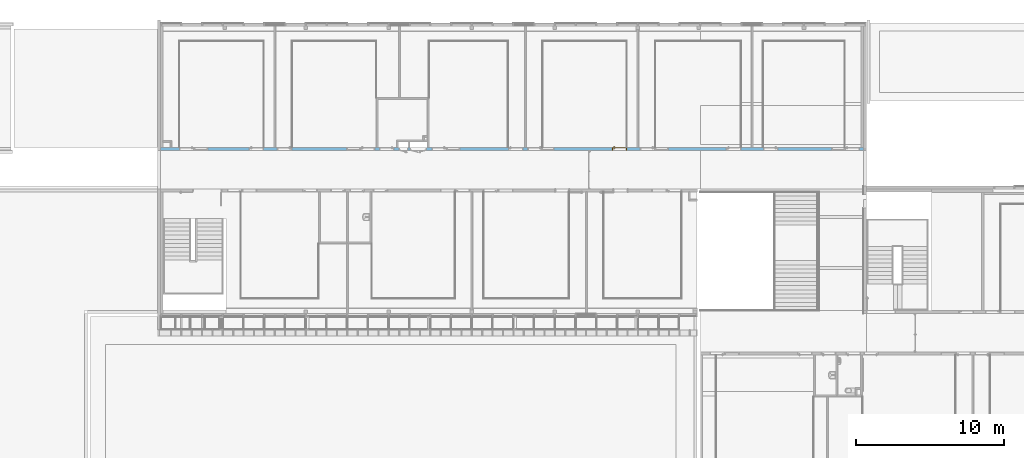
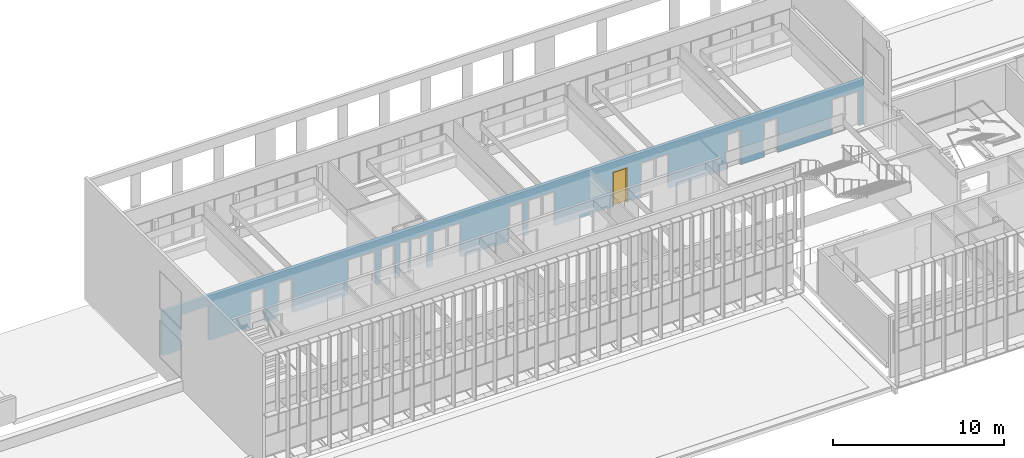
# One storey, part 56 of 106: 1 door, 21 openings, plus 1 element that does not belong to this part.
"""IFC2X3 building model written with IfcOpenShell, lengths in centimetres."""

from ifc_helpers import new_model, entity, si_unit, converted_unit, derived_unit, direction, frame, frame_2d, origin, place, context, subcontext, project, spatial, polyline, rectangle, extrude, clip, bounded_halfspace, faceted_brep, source, transform, mapped, material, material_list, layer, layer_set, layer_usage, type_object, type_shapes, element, fill, save


model = new_model("IFC2X3")

# Units and contexts
model_context = context("Model", 3, precision=0.001, world=origin(), true_north=direction((6.12303176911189e-17, 1.0)))
body_context = subcontext(model_context, "Body", "Model", "MODEL_VIEW")
ifc_project = project(units=[si_unit("LENGTHUNIT", "METRE", prefix="CENTI"), si_unit("AREAUNIT", "SQUARE_METRE"), si_unit("VOLUMEUNIT", "CUBIC_METRE"), converted_unit("PLANEANGLEUNIT", "DEGREE", entity("IfcRatioMeasure", 0.0174532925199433), si_unit("PLANEANGLEUNIT", "RADIAN"), dimensions=[0, 0, 0, 0, 0, 0, 0]), si_unit("MASSUNIT", "GRAM", prefix="KILO"), derived_unit("MASSDENSITYUNIT", [(si_unit("MASSUNIT", "GRAM", prefix="KILO"), 1), (si_unit("LENGTHUNIT", "METRE"), -3)]), si_unit("TIMEUNIT", "SECOND"), si_unit("FREQUENCYUNIT", "HERTZ"), si_unit("THERMODYNAMICTEMPERATUREUNIT", "DEGREE_CELSIUS"), derived_unit("THERMALTRANSMITTANCEUNIT", [(si_unit("MASSUNIT", "GRAM", prefix="KILO"), 1), (si_unit("THERMODYNAMICTEMPERATUREUNIT", "KELVIN"), -1), (si_unit("TIMEUNIT", "SECOND"), -3)]), derived_unit("VOLUMETRICFLOWRATEUNIT", [(si_unit("LENGTHUNIT", "METRE"), 3), (si_unit("TIMEUNIT", "SECOND"), -1)]), si_unit("ELECTRICCURRENTUNIT", "AMPERE"), si_unit("ELECTRICVOLTAGEUNIT", "VOLT"), si_unit("POWERUNIT", "WATT"), si_unit("FORCEUNIT", "NEWTON", prefix="KILO"), si_unit("ILLUMINANCEUNIT", "LUX"), si_unit("LUMINOUSFLUXUNIT", "LUMEN"), si_unit("LUMINOUSINTENSITYUNIT", "CANDELA"), derived_unit("USERDEFINED", [(si_unit("MASSUNIT", "GRAM", prefix="KILO"), -1), (si_unit("LENGTHUNIT", "METRE"), -2), (si_unit("TIMEUNIT", "SECOND"), 3), (si_unit("LUMINOUSFLUXUNIT", "LUMEN"), 1)]), derived_unit("LINEARVELOCITYUNIT", [(si_unit("LENGTHUNIT", "METRE"), 1), (si_unit("TIMEUNIT", "SECOND"), -1)]), si_unit("PRESSUREUNIT", "PASCAL"), derived_unit("USERDEFINED", [(si_unit("LENGTHUNIT", "METRE"), -2), (si_unit("MASSUNIT", "GRAM", prefix="KILO"), 1), (si_unit("TIMEUNIT", "SECOND"), -2)])], contexts=[model_context])

# Site, building, storey
site_placement = place(None, frame((-2781.94577612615, 7442.24238424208, 0.0)))
site = spatial("IfcSite", under=ifc_project, at=site_placement, Name="Default", CompositionType="ELEMENT")
building_placement = place(site_placement, origin())
building = spatial("IfcBuilding", under=site, at=building_placement, CompositionType="ELEMENT")
storey_placement = place(building_placement, frame((0.0, 0.0, 422.0)))
storey = spatial("IfcBuildingStorey", under=building, at=storey_placement, Name="Toiture - Cuisine", CompositionType="ELEMENT", Elevation=421.999999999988)

# Wall, openings, door
ifc_material_1 = material(Name="01 - Maçonnerie")
ifc_layer = layer(ifc_material_1, 20.0)
ifc_layer_set = layer_set([ifc_layer], Name="Mur de base:04 - Structure - béton - 20cm")
ifc_layer_usage = layer_usage(ifc_layer_set, "AXIS2", "NEGATIVE", 10.0)
wall_type = type_object("IfcWallType", Name="Mur de base:04 - Structure - béton - 20cm", PredefinedType="STANDARD", material=ifc_layer_set)
wall_placement = place(building_placement, frame((-8409.49987766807, -820.048500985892, 422.0)))
wall = element("IfcWallStandardCase", 1, at=wall_placement, inside=storey, type_object=wall_type, material=ifc_layer_usage, Name="Mur de base:04 - Structure - béton - 20cm", ObjectType="Mur de base:04 - Structure - béton - 20cm", context=body_context, shape_type="Clipping", body=[
    clip(extrude(rectangle(XDim=4741.49999798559, YDim=20.0, at=frame_2d((2370.74999899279, 2.04281036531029e-14), x_axis=(-1.0, 0.0))), origin(), (0.0, 0.0, 1.0), 321.0), bounded_halfspace(frame((4741.49999798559, -10.0, 321.0), z_axis=(0.0, 0.0, -1.0), x_axis=(0.0, 1.0, 0.0)), True, frame((4741.49999798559, -10.0, 321.0)), polyline([(0.0, 0.0), (0.0, 20.0), (-15.3000000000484, 20.0), (-125.300000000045, 20.0), (-127.300000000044, 20.0), (-675.800000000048, 20.0), (-677.800000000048, 20.0), (-745.800000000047, 20.0), (-755.800000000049, 20.0), (-825.800000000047, 20.0), (-827.800000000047, 20.0), (-1403.80000000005, 20.0), (-1405.80000000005, 20.0), (-1516.49999791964, 20.0), (-1526.49999791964, 20.0), (-1595.78709704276, 20.0), (-1597.78709704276, 20.0), (-2163.80000000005, 20.0), (-2165.80000000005, 20.0), (-2275.80000000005, 20.0), (-2285.80000000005, 20.0), (-2395.80000000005, 20.0), (-2397.80000000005, 20.0), (-2931.80000000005, 20.0), (-2941.80000000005, 20.0), (-3060.80000000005, 20.0), (-3070.80000000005, 20.0), (-3137.80000000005, 20.0), (-3147.80000000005, 20.0), (-3275.80000000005, 20.0), (-3285.80000000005, 20.0), (-3416.49999791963, 20.0), (-3535.80000000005, 20.0), (-3545.80000000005, 20.0), (-3611.80000000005, 20.0), (-3853.80000000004, 20.0), (-3855.80000000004, 20.0), (-3965.80000000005, 20.0), (-3975.80000000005, 20.0), (-4044.30000000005, 20.0), (-4046.30000000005, 20.0), (-4614.19999798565, 20.0), (-4616.19999798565, 20.0), (-4666.19999798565, 20.0), (-4676.19999798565, 20.0), (-4726.19999798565, 20.0), (-4741.49999798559, 20.0), (-4741.49999798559, 0.0), (-1854.0, 0.0), (-1844.0, 0.0), (-1840.0, 0.0), (0.0, 0.0)]))),
])
opening_1_placement = place(wall_placement, frame((1669.50000006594, 10.0, 0.0)))
element("IfcOpeningElement", 2, at=opening_1_placement, cuts=wall, Name="Int. Simple:PP Placard (0.55m x 2.50m):1", ObjectType="Opening", context=body_context, shape_type="SweptSolid", body=[
    extrude(rectangle(XDim=248.500000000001, YDim=61.9999999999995, at=frame_2d((124.250000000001, 30.9999999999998), x_axis=(1.0, 0.0))), frame((0.0, 0.0, 0.0), z_axis=(0.0, -1.0, 0.0), x_axis=(0.0, 0.0, 1.0)), (0.0, 0.0, 1.0), 20.0),
])
opening_2_placement = place(wall_placement, frame((1794.50000006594, 10.0, 0.0)))
element("IfcOpeningElement", 3, at=opening_2_placement, cuts=wall, Name="Int. Double:PP Placard (1.05m x 2.50m):1", ObjectType="Opening", context=body_context, shape_type="SweptSolid", body=[
    extrude(rectangle(XDim=248.500000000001, YDim=112.0, at=frame_2d((124.250000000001, 56.0000000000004), x_axis=(1.0, 0.0))), frame((0.0, 0.0, 0.0), z_axis=(0.0, -1.0, 0.0), x_axis=(0.0, 0.0, 1.0)), (0.0, 0.0, 1.0), 20.0),
])
opening_3_placement = place(wall_placement, frame((126.799999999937, -10.0, 0.0)))
element("IfcOpeningElement", 4, at=opening_3_placement, cuts=wall, Name="Int. Simple:PV (0.93m x 2.50m):1", ObjectType="Opening", context=body_context, shape_type="SweptSolid", body=[
    extrude(rectangle(XDim=248.500000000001, YDim=99.9999999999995, at=frame_2d((124.250000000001, 50.0), x_axis=(1.0, 0.0))), frame((0.0, 0.0, 0.0), z_axis=(0.0, 1.0, 0.0), x_axis=(0.0, 0.0, 1.0)), (0.0, 0.0, 1.0), 20.0),
])
opening_4_placement = place(wall_placement, frame((595.699997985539, -10.0, 0.0)))
element("IfcOpeningElement", 5, at=opening_4_placement, cuts=wall, Name="Int. Simple:PV (0.93m x 2.50m):1", ObjectType="Opening", context=body_context, shape_type="SweptSolid", body=[
    extrude(rectangle(XDim=248.500000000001, YDim=99.9999999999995, at=frame_2d((124.250000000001, 49.9999999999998), x_axis=(1.0, 0.0))), frame((0.0, 0.0, 0.0), z_axis=(0.0, 1.0, 0.0), x_axis=(0.0, 0.0, 1.0)), (0.0, 0.0, 1.0), 20.0),
])
opening_5_placement = place(wall_placement, frame((785.699997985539, -10.0, 0.0)))
element("IfcOpeningElement", 6, at=opening_5_placement, cuts=wall, Name="Int. Simple:PV (0.93m x 2.50m):1", ObjectType="Opening", context=body_context, shape_type="SweptSolid", body=[
    extrude(rectangle(XDim=248.500000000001, YDim=99.9999999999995, at=frame_2d((124.250000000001, 50.0), x_axis=(1.0, 0.0))), frame((0.0, 0.0, 0.0), z_axis=(0.0, 1.0, 0.0), x_axis=(0.0, 0.0, 1.0)), (0.0, 0.0, 1.0), 20.0),
])
opening_6_placement = place(wall_placement, frame((1345.69999798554, -10.0, 0.0)))
element("IfcOpeningElement", 7, at=opening_6_placement, cuts=wall, Name="Int. Simple:PV (0.93m x 2.50m):1", ObjectType="Opening", context=body_context, shape_type="SweptSolid", body=[
    extrude(rectangle(XDim=248.500000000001, YDim=99.9999999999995, at=frame_2d((124.250000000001, 49.9999999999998), x_axis=(1.0, 0.0))), frame((0.0, 0.0, 0.0), z_axis=(0.0, 1.0, 0.0), x_axis=(0.0, 0.0, 1.0)), (0.0, 0.0, 1.0), 20.0),
])
opening_7_placement = place(wall_placement, frame((1475.69999798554, -10.0, 0.0)))
element("IfcOpeningElement", 8, at=opening_7_placement, cuts=wall, Name="Int. Simple:PP simple (0.93m x 2.50m):1", ObjectType="Opening", context=body_context, shape_type="SweptSolid", body=[
    extrude(rectangle(XDim=248.500000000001, YDim=99.9999999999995, at=frame_2d((124.250000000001, 50.0), x_axis=(1.0, 0.0))), frame((0.0, 0.0, 0.0), z_axis=(0.0, 1.0, 0.0), x_axis=(0.0, 0.0, 1.0)), (0.0, 0.0, 1.0), 20.0),
])
opening_8_placement = place(wall_placement, frame((1829.69999798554, -10.0, 0.0)))
element("IfcOpeningElement", 9, at=opening_8_placement, cuts=wall, Name="Int. Simple:PV (0.93m x 2.50m):1", ObjectType="Opening", context=body_context, shape_type="SweptSolid", body=[
    extrude(rectangle(XDim=248.500000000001, YDim=99.9999999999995, at=frame_2d((124.250000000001, 50.0), x_axis=(1.0, 0.0))), frame((0.0, 0.0, 0.0), z_axis=(0.0, 1.0, 0.0), x_axis=(0.0, 0.0, 1.0)), (0.0, 0.0, 1.0), 20.0),
])
opening_9_placement = place(wall_placement, frame((2345.69999798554, -10.0, 0.0)))
element("IfcOpeningElement", 10, at=opening_9_placement, cuts=wall, Name="Int. Simple:PV (0.93m x 2.50m):1", ObjectType="Opening", context=body_context, shape_type="SweptSolid", body=[
    extrude(rectangle(XDim=248.500000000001, YDim=99.9999999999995, at=frame_2d((124.250000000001, 49.9999999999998), x_axis=(1.0, 0.0))), frame((0.0, 0.0, 0.0), z_axis=(0.0, 1.0, 0.0), x_axis=(0.0, 0.0, 1.0)), (0.0, 0.0, 1.0), 20.0),
])
opening_10_placement = place(wall_placement, frame((2475.69999798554, -10.0, 0.0)))
element("IfcOpeningElement", 11, at=opening_10_placement, cuts=wall, Name="Int. Simple:PV (0.93m x 2.50m):1", ObjectType="Opening", context=body_context, shape_type="SweptSolid", body=[
    extrude(rectangle(XDim=248.500000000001, YDim=99.9999999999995, at=frame_2d((124.250000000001, 50.0), x_axis=(1.0, 0.0))), frame((0.0, 0.0, 0.0), z_axis=(0.0, 1.0, 0.0), x_axis=(0.0, 0.0, 1.0)), (0.0, 0.0, 1.0), 20.0),
])
opening_11_placement = place(wall_placement, frame((3045.69999798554, -10.0, 0.0)))
opening_11 = element("IfcOpeningElement", 12, at=opening_11_placement, cuts=wall, Name="Int. Simple:PV (0.93m x 2.50m):1", ObjectType="Opening", context=body_context, shape_type="SweptSolid", body=[
    extrude(rectangle(XDim=248.500000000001, YDim=99.9999999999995, at=frame_2d((124.250000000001, 49.9999999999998), x_axis=(1.0, 0.0))), frame((0.0, 0.0, 0.0), z_axis=(0.0, 1.0, 0.0), x_axis=(0.0, 0.0, 1.0)), (0.0, 0.0, 1.0), 20.0),
])
opening_12_placement = place(wall_placement, frame((3235.69999798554, -10.0, 0.0)))
element("IfcOpeningElement", 13, at=opening_12_placement, cuts=wall, Name="Int. Simple:PV (0.93m x 2.50m):1", ObjectType="Opening", context=body_context, shape_type="SweptSolid", body=[
    extrude(rectangle(XDim=248.500000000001, YDim=99.9999999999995, at=frame_2d((124.250000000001, 50.0), x_axis=(1.0, 0.0))), frame((0.0, 0.0, 0.0), z_axis=(0.0, 1.0, 0.0), x_axis=(0.0, 0.0, 1.0)), (0.0, 0.0, 1.0), 20.0),
])
opening_13_placement = place(wall_placement, frame((3815.69999798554, -10.0, 0.0)))
element("IfcOpeningElement", 14, at=opening_13_placement, cuts=wall, Name="Int. Simple:PV (0.93m x 2.50m):1", ObjectType="Opening", context=body_context, shape_type="SweptSolid", body=[
    extrude(rectangle(XDim=248.500000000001, YDim=99.9999999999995, at=frame_2d((124.250000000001, 49.9999999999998), x_axis=(1.0, 0.0))), frame((0.0, 0.0, 0.0), z_axis=(0.0, 1.0, 0.0), x_axis=(0.0, 0.0, 1.0)), (0.0, 0.0, 1.0), 20.0),
])
opening_14_placement = place(wall_placement, frame((4065.69999798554, -10.0, 0.0)))
element("IfcOpeningElement", 15, at=opening_14_placement, cuts=wall, Name="Int. Simple:PV (0.93m x 2.50m):1", ObjectType="Opening", context=body_context, shape_type="SweptSolid", body=[
    extrude(rectangle(XDim=248.500000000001, YDim=99.9999999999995, at=frame_2d((124.250000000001, 50.0), x_axis=(1.0, 0.0))), frame((0.0, 0.0, 0.0), z_axis=(0.0, 1.0, 0.0), x_axis=(0.0, 0.0, 1.0)), (0.0, 0.0, 1.0), 20.0),
])
opening_15_placement = place(wall_placement, frame((4616.19999798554, -10.0, 0.0)))
element("IfcOpeningElement", 16, at=opening_15_placement, cuts=wall, Name="Int. Simple:PV (0.93m x 2.50m):1", ObjectType="Opening", context=body_context, shape_type="SweptSolid", body=[
    extrude(rectangle(XDim=248.500000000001, YDim=99.9999999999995, at=frame_2d((124.250000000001, 49.9999999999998), x_axis=(1.0, 0.0))), frame((0.0, 0.0, 0.0), z_axis=(0.0, 1.0, 0.0), x_axis=(0.0, 0.0, 1.0)), (0.0, 0.0, 1.0), 20.0),
])
opening_16_placement = place(wall_placement, frame((1255.69999798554, -10.0, 0.0)))
element("IfcOpeningElement", 17, at=opening_16_placement, cuts=wall, Name="châssis intérieur vitré:châssis intérieur vitré (h=270) R+1:1", ObjectType="Opening", context=body_context, shape_type="SweptSolid", body=[
    extrude(rectangle(XDim=250.0, YDim=89.9999999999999, at=frame_2d((125.0, 45.0), x_axis=(1.0, 0.0))), frame((0.0, 0.0, 0.0), z_axis=(0.0, 1.0, 0.0), x_axis=(0.0, 0.0, 1.0)), (0.0, 0.0, 1.0), 20.0),
])
opening_17_placement = place(wall_placement, frame((1929.69999798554, -10.0, 0.0)))
element("IfcOpeningElement", 18, at=opening_17_placement, cuts=wall, Name="châssis intérieur vitré:châssis intérieur vitré (h=270) R+1:1", ObjectType="Opening", context=body_context, shape_type="SweptSolid", body=[
    extrude(rectangle(XDim=250.0, YDim=89.9999999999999, at=frame_2d((125.0, 45.0), x_axis=(1.0, 0.0))), frame((0.0, 0.0, 0.0), z_axis=(0.0, 1.0, 0.0), x_axis=(0.0, 0.0, 1.0)), (0.0, 0.0, 1.0), 20.0),
])
opening_18_placement = place(wall_placement, frame((4526.19999798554, -10.0, 0.0)))
element("IfcOpeningElement", 19, at=opening_18_placement, cuts=wall, Name="châssis intérieur vitré:châssis intérieur vitré (h=270) R+1:1", ObjectType="Opening", context=body_context, shape_type="SweptSolid", body=[
    extrude(rectangle(XDim=250.0, YDim=89.9999999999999, at=frame_2d((125.0, 45.0000000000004), x_axis=(1.0, 0.0))), frame((0.0, 0.0, 0.0), z_axis=(0.0, 1.0, 0.0), x_axis=(0.0, 0.0, 1.0)), (0.0, 0.0, 1.0), 20.0),
])
opening_19_placement = place(wall_placement, frame((3335.69999798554, -10.0, 0.0)))
element("IfcOpeningElement", 20, at=opening_19_placement, cuts=wall, Name="châssis intérieur vitré:châssis intérieur vitré (h=270) R+1:1", ObjectType="Opening", context=body_context, shape_type="SweptSolid", body=[
    extrude(rectangle(XDim=250.0, YDim=89.9999999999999, at=frame_2d((125.0, 45.0000000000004), x_axis=(1.0, 0.0))), frame((0.0, 0.0, 0.0), z_axis=(0.0, 1.0, 0.0), x_axis=(0.0, 0.0, 1.0)), (0.0, 0.0, 1.0), 20.0),
])
opening_20_placement = place(wall_placement, frame((2565.69999798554, -10.0, 0.0)))
element("IfcOpeningElement", 21, at=opening_20_placement, cuts=wall, Name="châssis intérieur vitré:châssis intérieur vitré (h=270) R+1:1", ObjectType="Opening", context=body_context, shape_type="SweptSolid", body=[
    extrude(rectangle(XDim=250.0, YDim=89.9999999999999, at=frame_2d((125.0, 45.0000000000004), x_axis=(1.0, 0.0))), frame((0.0, 0.0, 0.0), z_axis=(0.0, 1.0, 0.0), x_axis=(0.0, 0.0, 1.0)), (0.0, 0.0, 1.0), 20.0),
])
opening_21_placement = place(wall_placement, frame((226.799999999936, -10.0, 0.0)))
element("IfcOpeningElement", 22, at=opening_21_placement, cuts=wall, Name="châssis intérieur vitré:châssis intérieur vitré (h=270) R+1:1", ObjectType="Opening", context=body_context, shape_type="SweptSolid", body=[
    extrude(rectangle(XDim=250.0, YDim=91.4999999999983, at=frame_2d((125.0, 45.7499999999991), x_axis=(1.0, 0.0))), frame((0.0, 0.0, 0.0), z_axis=(0.0, 1.0, 0.0), x_axis=(0.0, 0.0, 1.0)), (0.0, 0.0, 1.0), 20.0),
])
ifc_material_2 = material(Name="Finition Peinture - Blanc satiné")
ifc_material_3 = material(Name="Bois - Panneau de porte")
ifc_material_4 = material(Name="Bois - Cadre de porte")
ifc_material_list_1 = material_list([ifc_material_2, ifc_material_3, ifc_material_4])
ifc_material_list_2 = material_list([ifc_material_2, ifc_material_3, ifc_material_4])
door_style = type_object("IfcDoorStyle", Name="PV (0.93m x 2.50m)", ConstructionType="NOTDEFINED", OperationType="SINGLE_SWING_RIGHT", ParameterTakesPrecedence=False, Sizeable=False, material=ifc_material_list_2)
shared_shape = source(origin(), body_context, "Body", "Brep", [
    faceted_brep([(99.5000000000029, -0.500000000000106, 87.0), (99.5000000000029, -0.500000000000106, 108.0), (98.535276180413, -0.500000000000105, 108.399601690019), (97.5000000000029, -0.500000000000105, 108.535898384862), (96.4647238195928, -0.500000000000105, 108.399601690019), (95.500000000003, -0.500000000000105, 108.0), (95.5000000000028, -0.500000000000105, 87.0), (96.4647238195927, -0.500000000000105, 86.6003983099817), (97.5000000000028, -0.500000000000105, 86.464101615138), (98.5352761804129, -0.500000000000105, 86.6003983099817), (99.5000000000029, 0.0, 108.0), (99.5000000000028, 0.0, 87.0), (98.5352761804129, 0.0, 86.6003983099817), (97.5000000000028, 0.0, 86.464101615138), (96.4647238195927, 0.0, 86.6003983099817), (95.5000000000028, 0.0, 87.0), (95.5000000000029, 0.0, 108.0), (96.4647238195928, 0.0, 108.399601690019), (97.5000000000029, 0.0, 108.535898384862), (98.535276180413, 0.0, 108.399601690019)], [[[0, 1, 2, 3, 4, 5, 6, 7, 8, 9]], [[10, 11, 12, 13, 14, 15, 16, 17, 18, 19]], [[9, 12, 11, 0]], [[8, 13, 12, 9]], [[7, 14, 13, 8]], [[7, 6, 15, 14]], [[15, 6, 5, 16]], [[4, 17, 16, 5]], [[3, 18, 17, 4]], [[2, 19, 18, 3]], [[2, 1, 10, 19]], [[11, 10, 1, 0]]]),
    faceted_brep([(99.5000000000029, 4.0, 87.0), (99.5000000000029, 4.0, 108.0), (98.535276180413, 4.0, 108.399601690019), (97.5000000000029, 4.0, 108.535898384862), (96.4647238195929, 4.0, 108.399601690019), (95.500000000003, 4.0, 108.0), (95.5000000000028, 4.0, 87.0), (96.4647238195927, 4.0, 86.6003983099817), (97.5000000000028, 4.0, 86.464101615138), (98.5352761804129, 4.0, 86.6003983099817), (97.5000000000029, 4.49999999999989, 108.535898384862), (98.535276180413, 4.49999999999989, 108.399601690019), (99.5000000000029, 4.49999999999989, 108.0), (99.5000000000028, 4.49999999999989, 87.0), (98.5352761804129, 4.49999999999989, 86.6003983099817), (97.5000000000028, 4.49999999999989, 86.464101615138), (96.4647238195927, 4.49999999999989, 86.6003983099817), (95.5000000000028, 4.49999999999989, 87.0), (95.500000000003, 4.49999999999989, 108.0), (96.4647238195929, 4.49999999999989, 108.399601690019)], [[[0, 1, 2, 3, 4, 5, 6, 7, 8, 9]], [[10, 11, 12, 13, 14, 15, 16, 17, 18, 19]], [[4, 19, 18, 5]], [[3, 10, 19, 4]], [[2, 11, 10, 3]], [[2, 1, 12, 11]], [[13, 12, 1, 0]], [[9, 14, 13, 0]], [[8, 15, 14, 9]], [[7, 16, 15, 8]], [[7, 6, 17, 16]], [[17, 6, 5, 18]]]),
    faceted_brep([(97.2974701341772, -0.500000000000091, 100.778044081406), (97.7025298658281, -0.500000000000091, 100.778044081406), (98.1000000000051, -0.500000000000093, 100.699999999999), (98.100000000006, -0.500000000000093, 99.2999999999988), (97.7025298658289, -0.500000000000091, 99.221955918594), (97.297470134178, -0.500000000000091, 99.2219559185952), (96.9000000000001, -0.500000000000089, 99.3000000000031), (96.9000000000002, -0.500000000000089, 100.7), (97.7025298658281, -3.10045754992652, 100.778044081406), (98.1000000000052, -3.26509507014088, 100.7), (97.2974701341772, -2.93267631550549, 100.778044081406), (95.9298602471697, -4.30028620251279, 100.778044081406), (96.0976414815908, -4.70534593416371, 100.778044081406), (96.9000000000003, -2.76803879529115, 100.7), (96.9000000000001, -2.76803879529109, 99.3000000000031), (97.297470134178, -2.93267631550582, 99.2219559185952), (97.7025298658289, -3.10045754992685, 99.221955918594), (96.0976414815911, -4.70534593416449, 99.221955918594), (95.9298602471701, -4.30028620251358, 99.2219559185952), (98.100000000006, -3.26509507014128, 99.2999999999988), (96.2622790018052, -5.1028160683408, 100.7), (95.7652227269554, -3.90281606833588, 100.7), (95.7652227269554, -3.90281606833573, 99.3000000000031), (96.2622790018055, -5.10281606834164, 99.2999999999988), (87.4981359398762, -5.10281606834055, 100.7), (87.4981359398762, -4.70534593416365, 100.778044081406), (87.4981359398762, -4.30028620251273, 100.778044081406), (87.4981359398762, -3.90281606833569, 100.699999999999), (87.4981359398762, -3.90281606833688, 99.3000000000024), (87.4981359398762, -4.30028620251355, 99.2219559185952), (87.4981359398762, -4.70534593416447, 99.221955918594), (87.4981359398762, -5.10281606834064, 99.2999999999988), (91.7139980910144, -4.5028160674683, 100.78786867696), (92.2692302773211, -5.1028160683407, 100.7), (91.6316793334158, -3.9028160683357, 100.7), (91.631679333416, -3.90281606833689, 99.3000000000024), (91.7139981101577, -4.50281607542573, 99.2121313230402), (92.2692310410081, -5.10281606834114, 99.2999999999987)], [[[0, 1, 2, 3, 4, 5, 6, 7]], [[2, 1, 8, 9]], [[1, 0, 10, 11, 12, 8]], [[0, 7, 13, 10]], [[14, 13, 7, 6]], [[5, 15, 14, 6]], [[5, 4, 16, 17, 18, 15]], [[3, 19, 16, 4]], [[9, 19, 3, 2]], [[9, 8, 12, 20]], [[10, 13, 21, 11]], [[22, 21, 13, 14]], [[14, 15, 18, 22]], [[16, 19, 23, 17]], [[20, 23, 19, 9]], [[24, 25, 26, 27, 28, 29, 30, 31]], [[32, 25, 33]], [[33, 25, 24]], [[33, 20, 12]], [[11, 34, 32]], [[34, 11, 21]], [[27, 26, 34]], [[32, 26, 25]], [[32, 34, 26]], [[32, 33, 12]], [[11, 32, 12]], [[21, 22, 35, 28, 27, 34]], [[36, 29, 35]], [[30, 36, 37]], [[18, 35, 22]], [[29, 28, 35]], [[30, 37, 31]], [[37, 17, 23]], [[36, 17, 37]], [[36, 18, 17]], [[36, 35, 18]], [[29, 36, 30]], [[23, 20, 33, 24, 31, 37]]]),
    faceted_brep([(97.2974701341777, 4.49999999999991, 99.2219559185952), (97.7025298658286, 4.49999999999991, 99.221955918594), (98.1000000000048, 4.4999999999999, 99.2999999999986), (98.1000000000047, 4.4999999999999, 100.7), (97.7025298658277, 4.49999999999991, 100.778044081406), (97.2974701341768, 4.49999999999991, 100.778044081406), (96.8999999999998, 4.49999999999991, 100.7), (96.900000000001, 4.49999999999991, 99.3000000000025), (96.8999999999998, 6.7485204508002, 100.7), (96.8999999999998, 6.74852045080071, 99.3000000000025), (97.2974701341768, 6.91315797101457, 100.778044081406), (97.7025298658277, 7.0809392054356, 100.778044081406), (96.0838906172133, 8.69957845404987, 100.778044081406), (95.9161093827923, 8.29451872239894, 100.778044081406), (98.1000000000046, 7.24557672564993, 100.7), (98.1000000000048, 7.24557672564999, 99.2999999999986), (97.7025298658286, 7.08093920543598, 99.221955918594), (97.2974701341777, 6.91315797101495, 99.2219559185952), (95.9161093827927, 8.29451872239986, 99.2219559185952), (96.0838906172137, 8.69957845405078, 99.221955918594), (95.751471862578, 7.89704858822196, 100.7), (95.7514718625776, 7.89704858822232, 99.3000000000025), (96.2485281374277, 9.09704858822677, 100.7), (96.2485281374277, 9.09704858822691, 99.2999999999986), (87.4954216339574, 8.29451872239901, 100.778044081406), (87.4954216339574, 8.69957845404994, 100.778044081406), (87.4954216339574, 9.09704858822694, 100.7), (87.4954216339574, 9.09704858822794, 99.2999999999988), (87.4954216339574, 8.6995784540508, 99.221955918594), (87.4954216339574, 8.29451872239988, 99.2219559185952), (87.4954216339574, 7.89704858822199, 99.3000000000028), (87.4954216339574, 7.89704858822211, 100.7), (91.6234467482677, 7.89704858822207, 100.7), (91.6234479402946, 7.89704858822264, 99.3000000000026), (91.7057655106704, 8.49704858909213, 100.78786867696), (92.255479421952, 9.09704858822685, 100.7), (92.2554795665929, 9.09704858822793, 99.2999999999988), (91.7057654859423, 8.49704858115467, 99.2121313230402)], [[[0, 1, 2, 3, 4, 5, 6, 7]], [[8, 9, 7, 6]], [[5, 10, 8, 6]], [[5, 4, 11, 12, 13, 10]], [[3, 14, 11, 4]], [[14, 3, 2, 15]], [[2, 1, 16, 15]], [[1, 0, 17, 18, 19, 16]], [[0, 7, 9, 17]], [[20, 21, 9, 8]], [[8, 10, 13, 20]], [[14, 22, 12, 11]], [[23, 22, 14, 15]], [[15, 16, 19, 23]], [[17, 9, 21, 18]], [[24, 25, 26, 27, 28, 29, 30, 31]], [[21, 20, 32, 31, 30, 33]], [[34, 24, 32]], [[25, 34, 35]], [[13, 32, 20]], [[24, 31, 32]], [[25, 35, 26]], [[35, 12, 22]], [[34, 12, 35]], [[34, 13, 12]], [[34, 32, 13]], [[24, 34, 25]], [[22, 23, 36, 27, 26, 35]], [[37, 28, 36]], [[36, 28, 27]], [[36, 23, 19]], [[18, 33, 37]], [[33, 18, 21]], [[30, 29, 33]], [[37, 29, 28]], [[37, 33, 29]], [[37, 36, 19]], [[18, 37, 19]]]),
    faceted_brep([(103.500000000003, 4.0, 245.0), (103.500000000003, 4.0, 0.0), (10.5000000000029, 4.0, 0.0), (10.5000000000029, 4.0, 245.0), (103.500000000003, 0.0, 245.0), (10.5000000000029, 0.0, 245.0), (10.5000000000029, 0.0, 0.0), (103.500000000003, 0.0, 0.0)], [[[0, 1, 2, 3]], [[4, 5, 6, 7]], [[3, 5, 4, 0]], [[2, 6, 5, 3]], [[1, 7, 6, 2]], [[0, 4, 7, 1]]]),
    faceted_brep([(107.0, 20.0, 0.0), (107.0, 0.0, 0.0), (108.500000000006, 0.0, 0.0), (108.500000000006, -0.500000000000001, 0.0), (103.500000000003, -0.500000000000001, 0.0), (103.500000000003, 4.0, 0.0), (102.0, 4.0, 0.0), (102.0, 20.5000000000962, 0.0), (108.500000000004, 20.5000000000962, 0.0), (108.500000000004, 20.0, 0.0), (108.500000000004, 20.0, 250.0), (5.50000000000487, 20.0, 250.0), (5.50000000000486, 20.0, 0.0), (7.0, 20.0, 0.0), (7.0, 20.0, 248.500000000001), (107.0, 20.0, 248.500000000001), (108.500000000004, 20.5000000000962, 250.0), (102.0, 20.5000000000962, 243.5), (12.0, 20.5000000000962, 243.5), (12.0, 20.5000000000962, 0.0), (5.50000000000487, 20.5000000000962, 0.0), (5.50000000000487, 20.5000000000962, 250.0), (102.0, 4.0, 243.5), (103.500000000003, 4.0, 245.0), (10.5000000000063, 4.0, 245.0), (10.5000000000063, 4.0, 0.0), (12.0, 4.0, 0.0), (12.0, 4.0, 243.5), (103.500000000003, -0.500000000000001, 245.0), (108.500000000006, -0.500000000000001, 250.0), (5.5000000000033, -0.500000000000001, 250.0), (5.50000000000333, -0.500000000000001, 0.0), (10.5000000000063, -0.500000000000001, 0.0), (10.5000000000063, -0.500000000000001, 245.0), (108.500000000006, 0.0, 250.0), (107.0, 0.0, 248.500000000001), (7.0, 0.0, 248.500000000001), (7.0, 0.0, 0.0), (5.5000000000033, 0.0, 0.0), (5.50000000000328, 0.0, 250.0)], [[[0, 1, 2, 3, 4, 5, 6, 7, 8, 9]], [[9, 10, 11, 12, 13, 14, 15, 0]], [[8, 16, 10, 9]], [[7, 17, 18, 19, 20, 21, 16, 8]], [[7, 6, 22, 17]], [[5, 23, 24, 25, 26, 27, 22, 6]], [[5, 4, 28, 23]], [[3, 29, 30, 31, 32, 33, 28, 4]], [[2, 34, 29, 3]], [[1, 35, 36, 37, 38, 39, 34, 2]], [[0, 15, 35, 1]], [[14, 13, 37, 36]], [[13, 12, 20, 19, 26, 25, 32, 31, 38, 37]], [[21, 20, 12, 11]], [[27, 26, 19, 18]], [[33, 32, 25, 24]], [[39, 38, 31, 30]], [[16, 21, 11, 10]], [[22, 27, 18, 17]], [[28, 33, 24, 23]], [[34, 39, 30, 29]], [[15, 14, 36, 35]]]),
])
type_shapes(door_style, [shared_shape])
door_placement = place(opening_11_placement, frame((107.0, 20.0, 0.0), z_axis=(0.0, 0.0, 1.0), x_axis=(-1.0, 0.0, 0.0)))
door = element("IfcDoor", 23, at=door_placement, inside=storey, type_object=door_style, material=ifc_material_list_1, Name="Int. Simple:PV (0.93m x 2.50m)", ObjectType="Int. Simple:PV (0.93m x 2.50m)", OverallHeight=248.500000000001, OverallWidth=99.9999999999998, context=body_context, shape_type="MappedRepresentation", body=[
    mapped(shared_shape, transform((0.0, 0.0, 0.0), scale=1.0)),
])
fill(opening_11, door)

save(model, "model.ifc")
